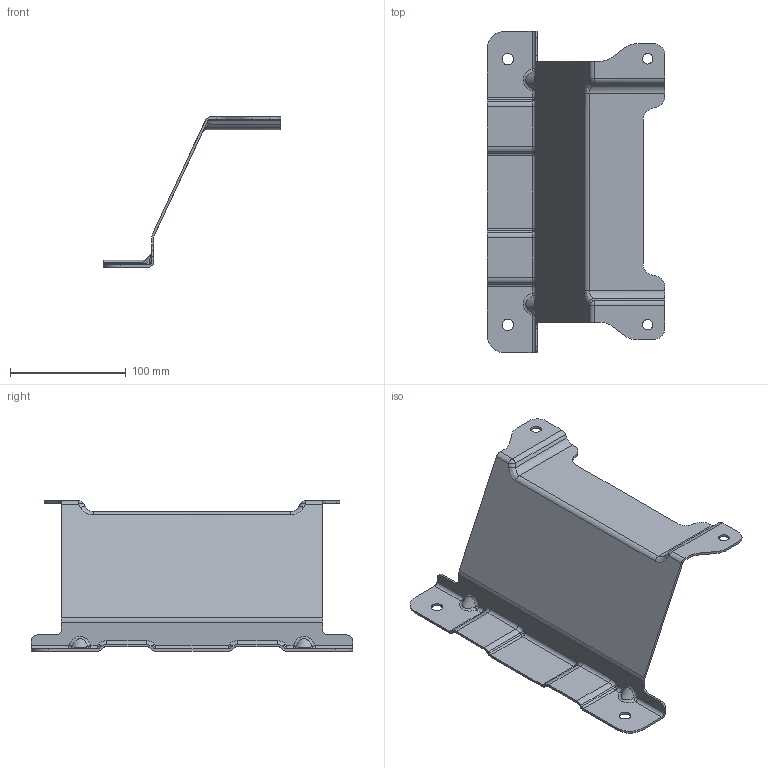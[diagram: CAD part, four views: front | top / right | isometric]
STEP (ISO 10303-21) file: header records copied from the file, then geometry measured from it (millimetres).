
FILE_DESCRIPTION(('CATIA V5 STEP Exchange'),'2;1');
FILE_NAME('E:\李燕龙\吉利商用车G3\07 设计变更\ECR0009849--标配底支架后移50mm设计变更\数据图纸\SHT0015284 标配前支撑钣金\SHT0016510.stp','2023-10-23T03:47:15+00:00',('none'),('none'),'CATIA Version 5 Release 20 GA (IN-10)','CATIA V5 STEP AP214','none');
FILE_SCHEMA(('AUTOMOTIVE_DESIGN { 1 0 10303 214 1 1 1 1 }'));
Length unit declared in the file: millimetre
Products named in the file (1): SHT0016510
Bounding box: 154 x 278 x 130 mm (x, y, z)
Volume: 109775 mm3; surface area: 112179 mm2
Topology: 1 solids, 1 shells, 174 faces, 458 edges, 266 vertices
Faces by surface type: cylinder 86, plane 48, sphere 20, bspline 12, torus 8
Entity records: 6617 total; most frequent: CARTESIAN_POINT 2666, ORIENTED_EDGE 876, DIRECTION 677, EDGE_CURVE 438, AXIS2_PLACEMENT_3D 304, VERTEX_POINT 266, VECTOR 230, LINE 230
